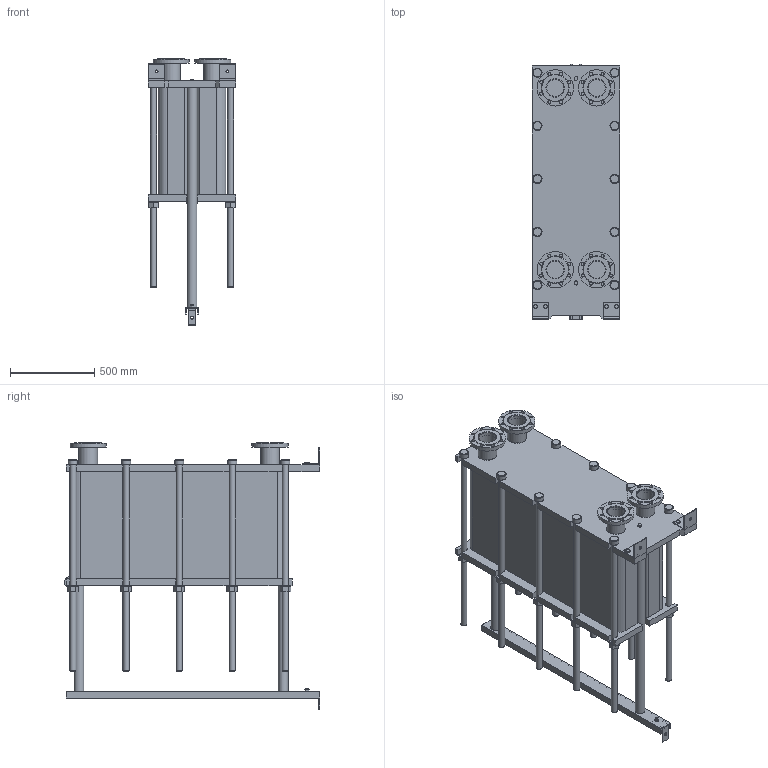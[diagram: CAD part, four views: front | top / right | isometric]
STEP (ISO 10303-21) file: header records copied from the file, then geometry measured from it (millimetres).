
FILE_DESCRIPTION(/* description */ (''),/* implementation_level */ '2;1');
FILE_NAME(/* name */ 'C:\Users\zhuro\Desktop\ENCO\TO\ЭН-04\ЭН-0,5-04-184-1.stp',/* time_stamp */ '2022-06-06T11:00:59+03:00',/* author */ ('zhuro'),/* organization */ (''),/* preprocessor_version */ 'ST-DEVELOPER v18.1',/* originating_system */ 'Autodesk Inventor 2022',/* authorisation */ '');
FILE_SCHEMA (('AUTOMOTIVE_DESIGN { 1 0 10303 214 3 1 1 }'));
Length unit declared in the file: millimetre
Products named in the file (1): ЭН-0,5-04-184-1
Bounding box: 520 x 1510 x 1577 mm (x, y, z)
Volume: 392972854.7 mm3; surface area: 10202429.9 mm2
Topology: 45 solids, 45 shells, 668 faces, 1611 edges, 1048 vertices
Faces by surface type: plane 457, cylinder 166, cone 39, torus 6
Full cylindrical faces by diameter (mm): 8 x4, 10 x2, 16 x8, 18 x35, 36 x25, 40 x2, 42 x1, 45 x4, 54 x10, 57 x2, 60 x10, 68 x2, 100 x4, 110 x8, 215 x4
Entity records: 23607 total; most frequent: CARTESIAN_POINT 7348, DIRECTION 3371, ORIENTED_EDGE 3142, EDGE_CURVE 1571, AXIS2_PLACEMENT_3D 1199, VERTEX_POINT 1044, LINE 973, VECTOR 973
